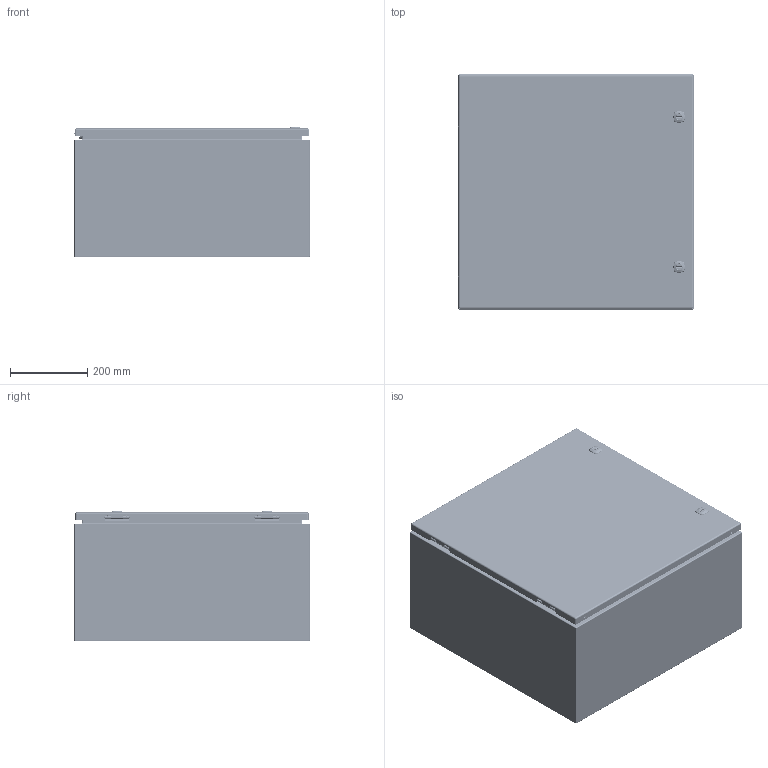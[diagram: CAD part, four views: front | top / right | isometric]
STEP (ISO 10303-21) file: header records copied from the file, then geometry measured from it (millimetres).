
FILE_DESCRIPTION(/* description */ ('5412ES 24" x 24" x 12" Assembly'),/* implementation_level */ '2;1');
FILE_NAME(/* name */ 'C:\Vault_Workspace\Inventor_Dwg\BoxCad\Result\5412ESB242412\e-mail\3D\5412ESB242412.stp',/* time_stamp */ '2022-03-15T18:33:56-04:00',/* author */ ('BoxCad'),/* organization */ (''),/* preprocessor_version */ 'ST-DEVELOPER v18.1',/* originating_system */ 'Autodesk Inventor 2020',/* authorisation */ '');
FILE_SCHEMA (('AUTOMOTIVE_DESIGN { 1 0 10303 214 3 1 1 }'));
Products named in the file (44): 5412ESB242412; 5412ESB242412B; 5412ESB242412B-P; STK-Q-16005; STUD_M6 x 16mm; STK-Q-07610; 881SP2424G; 881SP2424G-P; STK-Q-07310; 5412ESB242412C; 5412ESB242412C-P; 5412ESB242412G; STK-K-09800; STK-K-09800-2; STK-Q-33014; STK-Q-90398; STK-Q-40095; STK-Q-63410; STK-Q-16055; STK-Q-46020-24; STK-Q-07220-1; STK-Q-07220-2; STK-Q-07220-3; STK-Q-07220-4; STK-Q-07220-A; STK-Q-07220-B; STK-P-03820R; STK-S-00100; STK-A-880SCQ4-SL-1; STK-A-880SCQ4-SL-2; STK-Q-78110; STK-Q-78120; STK-Q-78145; STK-Q-03200; STK-Q-78125; STK-Q-78141; STK-Q-90390; STK-Q-78160; STK-Q-04050-07; STK-Q-04050-07-2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
Assembly tree (81 placements, depth 4):
  5412ESB242412
    5412ESB242412B
      5412ESB242412B-P
      STK-Q-16005  x4
      STK-P-03820R
      STUD_M6 x 16mm
    STK-Q-07610  x4
    881SP2424G
      881SP2424G-P
    STK-Q-07310  x4
    5412ESB242412C
      5412ESB242412C-P
      5412ESB242412G
      STK-K-09800
        STK-Q-33014
        STK-Q-90398
        STK-Q-40095  x2
        STK-Q-63410  x2
      STK-K-09800-2
        STK-Q-33014
        STK-Q-90398
        STK-Q-40095  x2
        STK-Q-63410  x2
      STK-Q-16055  x4
      STK-Q-46020-24  x2
      STK-Q-07220-1
        STK-Q-07220-A
        STK-Q-07220-B
      STK-Q-07220-2
        STK-Q-07220-A
        STK-Q-07220-B
      STK-Q-07220-3
        STK-Q-07220-A
        STK-Q-07220-B
      STK-Q-07220-4
        STK-Q-07220-A
        STK-Q-07220-B
      STK-P-03820R
      STK-S-00100
      STK-A-880SCQ4-SL-1
        STK-Q-78110
        STK-Q-78120
        STK-Q-78145
        STK-Q-03200
        STK-Q-78125
        STK-Q-78141
        STK-Q-90390
        STK-Q-78160
      STK-A-880SCQ4-SL-2
        STK-Q-78110
        STK-Q-78120
        STK-Q-78145
        STK-Q-03200
        STK-Q-78125
        STK-Q-78141
        STK-Q-90390
        STK-Q-78160
    STK-Q-04050-07
      STK-Q-04050-07-P
      STK-Q-04050-N
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Bounding box: 609.67 x 609.6 x 337.95 mm (x, y, z)
Volume: 3312297 mm3; surface area: 4170029.4 mm2
Topology: 64 solids, 64 shells, 9656 faces, 25916 edges, 16457 vertices
Faces by surface type: bspline 3404, plane 2761, cylinder 2500, torus 631, sphere 184, cone 176
Full cylindrical faces by diameter (mm): 0 x1, 0.75 x9, 0.762 x9, 1 x8, 1.1 x8, 3.2 x4, 4.191 x40, 4.5 x4, 4.521 x8, 4.75 x2, 4.85 x16, 4.95 x4, 5 x4, 5.1 x36, 5.156 x4, 5.6 x2, 5.9 x29, 6.015 x40, 6.65 x4, 6.8 x4, 6.85 x16, 7.3 x2, 7.366 x4, 7.9 x8, 8 x12, 8.382 x2, 9.5 x4, 9.6 x2, 9.906 x4, 10 x2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
Entity records: 154892 total; most frequent: CARTESIAN_POINT 63872, ORIENTED_EDGE 20830, DIRECTION 15141, EDGE_CURVE 10415, VERTEX_POINT 6595, AXIS2_PLACEMENT_3D 5552, EDGE_LOOP 4242, LINE 4037
